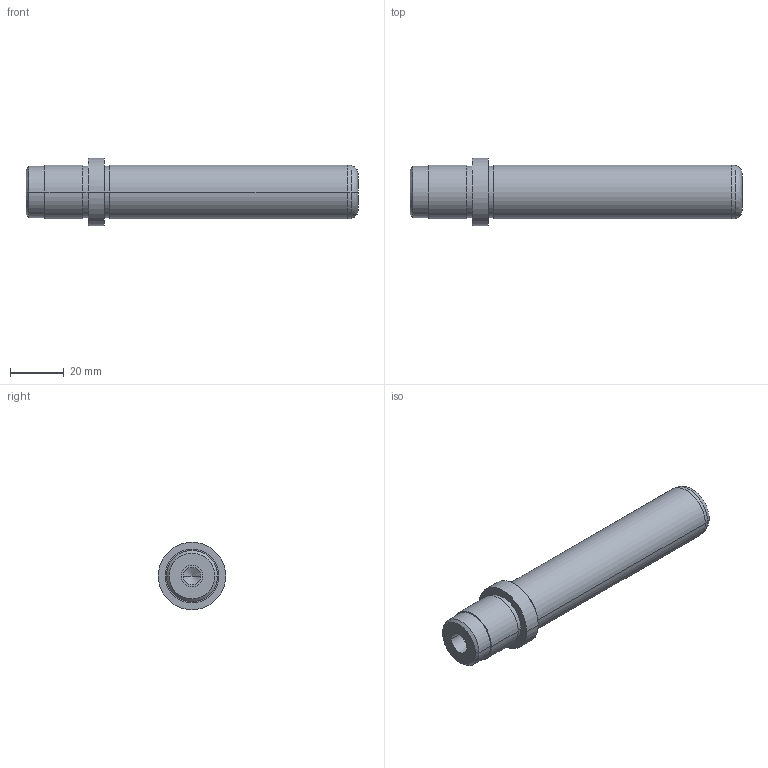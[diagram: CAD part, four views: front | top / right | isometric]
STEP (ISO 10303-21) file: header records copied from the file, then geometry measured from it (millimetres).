
FILE_DESCRIPTION( ( 'STEP AP203' ), '1' );
FILE_NAME( 'D:/Delta 3 D/D00/D00 - 20x100x23.step', '2003-01-02T06:39:42', ( ' ' ), ( ' ' ), 'XStep 1.0', ' ', ' ' );
FILE_SCHEMA( ( 'CONFIG_CONTROL_DESIGN' ) );
Length unit declared in the file: metre
Products named in the file (1): 1
Bounding box: 123 x 25 x 25 mm (x, y, z)
Volume: 36943.4 mm3; surface area: 9938.3 mm2
Topology: 1 solids, 1 shells, 39 faces, 78 edges, 48 vertices
Faces by surface type: revolution 28, bspline 11
Entity records: 1137 total; most frequent: CARTESIAN_POINT 277, DIRECTION 154, ORIENTED_EDGE 152, EDGE_CURVE 76, AXIS2_PLACEMENT_3D 49, EDGE_LOOP 48, VERTEX_POINT 48, CIRCLE 48
